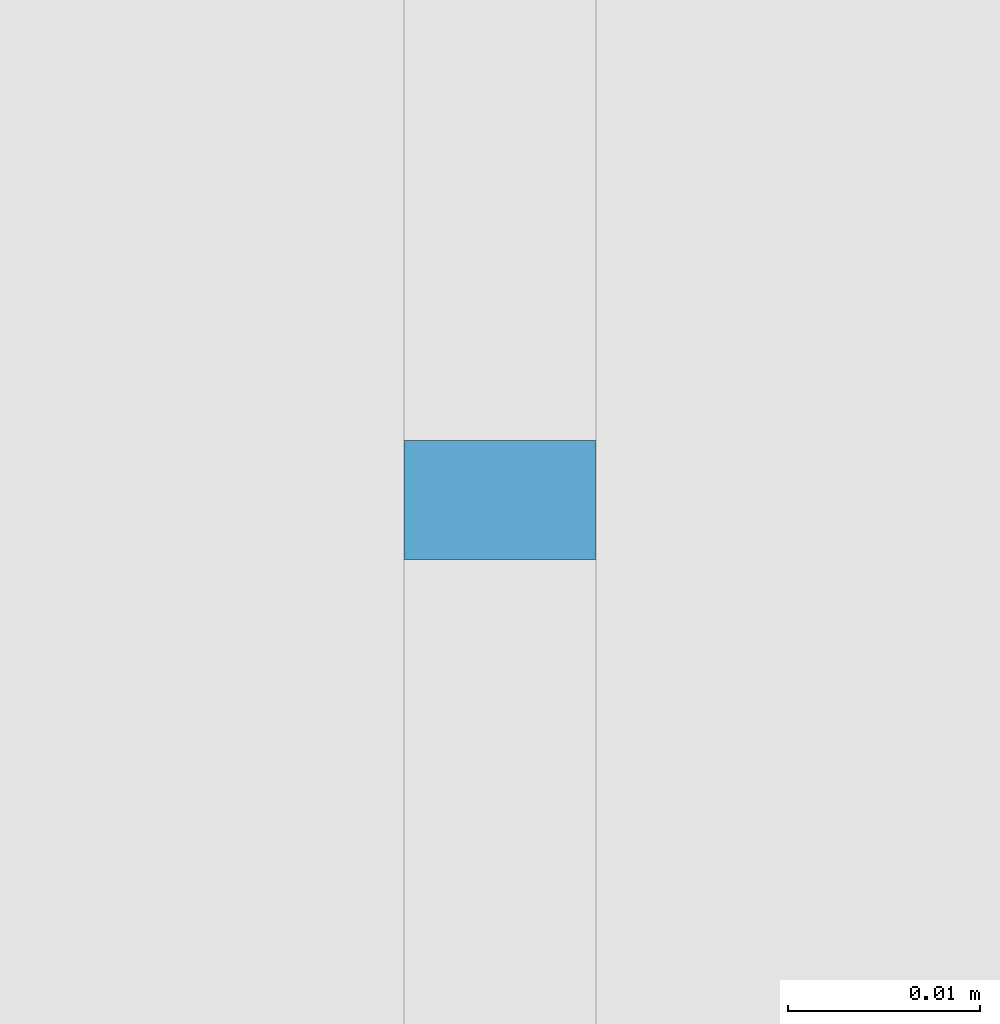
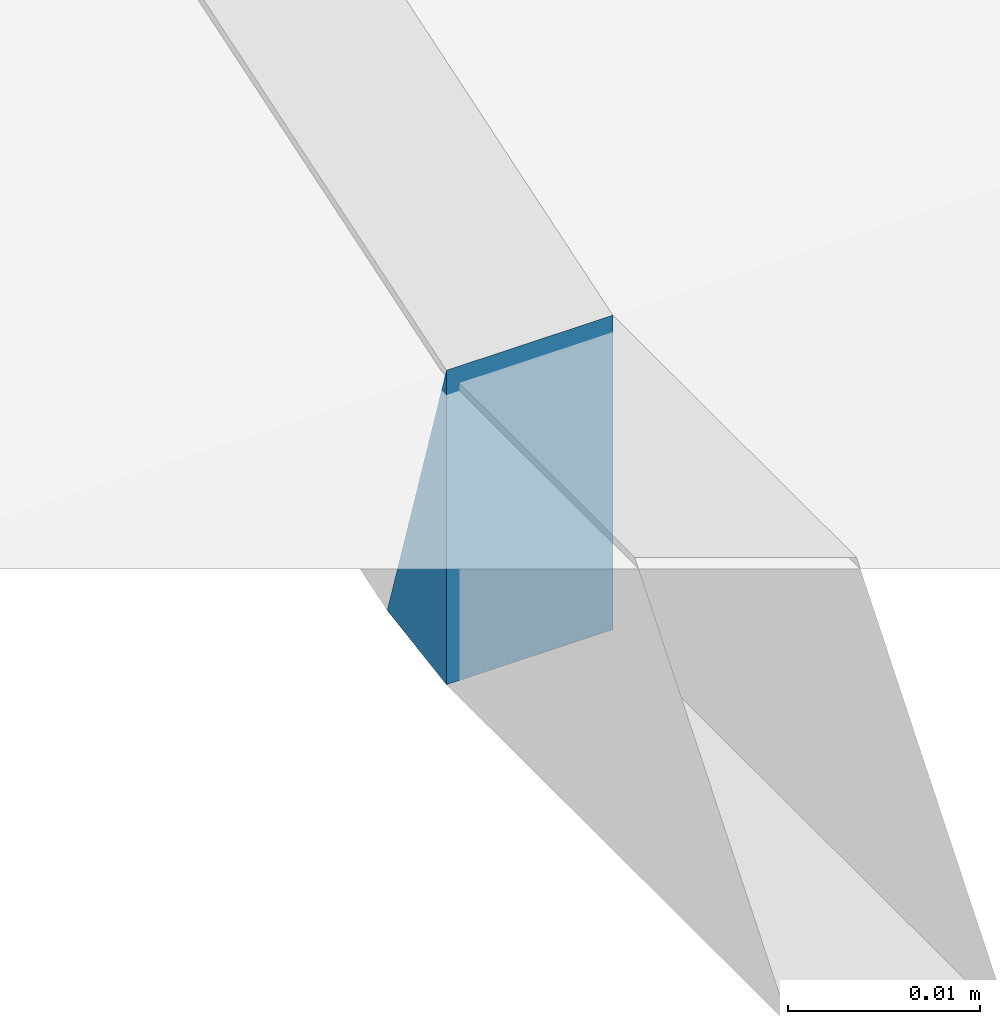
# One storey, part 332 of 583: 1 slab.
"""IFC2X3 building model written with IfcOpenShell, lengths in metres."""

import ifcopenshell
import ifcopenshell.guid

model = None  # the IFC model being written
_history = None  # IfcOwnerHistory: only IFC2X3 demands one
_inside = {}  # id of a spatial element -> (the spatial element, [elements in it])
_under = {}  # id of a project, library or spatial element -> (it, [spatial elements below it])
_declared = {}  # id of a project -> (the project, [libraries it declares])
_typed = {}  # id of a type object -> (the type object, [elements of that type])
_made_of = {}  # id of a material, layer set ... -> (it, [elements and type objects made of it])


def new_model(schema):
    """Start an empty IFC model of exactly this schema.

    Asked for "IFC4X3", IfcOpenShell would pick the latest addendum, in which some entities
    have other attributes; the version numbers below select the first issue.
    IFC2X3 requires an IfcOwnerHistory on every rooted entity: one is made here for all.
    """
    global model, _history
    if schema == "IFC4X3":
        model = ifcopenshell.file(schema_version=(4, 3, 0, 0))
    else:
        model = ifcopenshell.file(schema=schema)
    _inside.clear()
    _under.clear()
    _declared.clear()
    _typed.clear()
    _made_of.clear()
    _history = None
    if model.schema == "IFC2X3":
        org = make("IfcOrganization", Name="unknown")
        user = make(
            "IfcPersonAndOrganization",
            ThePerson=make("IfcPerson", FamilyName="unknown"),
            TheOrganization=org,
        )
        app = make(
            "IfcApplication",
            ApplicationDeveloper=org,
            Version="unknown",
            ApplicationFullName="unknown",
            ApplicationIdentifier="unknown",
        )
        _history = make(
            "IfcOwnerHistory",
            OwningUser=user,
            OwningApplication=app,
            ChangeAction="ADDED",
            CreationDate=0,
        )
    return model


def make(cls, **values):
    """One entity of the class cls with the attributes given. An attribute that is None is left unset."""
    return model.create_entity(
        cls, **{name: value for name, value in values.items() if value is not None}
    )


def entity(cls, *values):
    """Any entity or typed value of the class cls, its attributes in the order of the schema. None: left unset."""
    e = model.create_entity(cls)
    for i, value in enumerate(values):
        if value is not None:
            e[i] = value
    return e


def rooted(cls, **values):
    """An entity with a GlobalId (a new one), such as an element, a storey or a relation."""
    return make(cls, GlobalId=ifcopenshell.guid.new(), OwnerHistory=_history, **values)


def si_unit(unit_type, name, prefix=None):
    """IfcSIUnit, for example si_unit("LENGTHUNIT", "METRE", prefix="MILLI")."""
    return make("IfcSIUnit", UnitType=unit_type, Prefix=prefix, Name=name)


def converted_unit(unit_type, name, factor, base, dimensions=None, offset=None):
    """IfcConversionBasedUnit, such as the inch: factor (a typed value) times the base unit."""
    return make(
        "IfcConversionBasedUnit"
        if offset is None
        else "IfcConversionBasedUnitWithOffset",
        ConversionOffset=offset,
        Dimensions=None
        if dimensions is None
        else entity("IfcDimensionalExponents", *dimensions),
        UnitType=unit_type,
        Name=name,
        ConversionFactor=make(
            "IfcMeasureWithUnit", ValueComponent=factor, UnitComponent=base
        ),
    )


def derived_unit(unit_type, elements):
    """IfcDerivedUnit: a product of units, each with its exponent."""
    return make(
        "IfcDerivedUnit",
        Elements=[
            make("IfcDerivedUnitElement", Unit=unit, Exponent=power)
            for unit, power in elements
        ],
        UnitType=unit_type,
    )


def money_unit(currency):
    """IfcMonetaryUnit."""
    return make("IfcMonetaryUnit", Currency=currency)


def assignment(units):
    """IfcUnitAssignment: the units of a project."""
    return None if units is None else make("IfcUnitAssignment", Units=units)


def point(xyz):
    """IfcCartesianPoint."""
    return None if xyz is None else make("IfcCartesianPoint", Coordinates=xyz)


def direction(xyz):
    """IfcDirection."""
    return None if xyz is None else make("IfcDirection", DirectionRatios=xyz)


def frame(location, z_axis=None, x_axis=None):
    """IfcAxis2Placement3D, a coordinate frame: its origin and axes. An axis left out is left unset."""
    return make(
        "IfcAxis2Placement3D",
        Location=point(location),
        Axis=direction(z_axis),
        RefDirection=direction(x_axis),
    )


def origin_with_axes():
    """The frame at (0, 0, 0) with the z axis (0, 0, 1) and the x axis (1, 0, 0) written out."""
    return frame((0.0, 0.0, 0.0), z_axis=(0.0, 0.0, 1.0), x_axis=(1.0, 0.0, 0.0))


def place(relative_to, where):
    """IfcLocalPlacement: puts the frame where relative to a parent placement (None: the world)."""
    return make(
        "IfcLocalPlacement", PlacementRelTo=relative_to, RelativePlacement=where
    )


def context(
    kind, dimensions, precision=None, world=None, true_north=None, identifier=None
):
    """IfcGeometricRepresentationContext, for example the 3D "Model" context."""
    return make(
        "IfcGeometricRepresentationContext",
        ContextIdentifier=identifier,
        ContextType=kind,
        CoordinateSpaceDimension=dimensions,
        Precision=precision,
        WorldCoordinateSystem=world,
        TrueNorth=true_north,
    )


def subcontext(parent, identifier, kind, view, scale=None):
    """IfcGeometricRepresentationSubContext, for example "Body" below "Model"."""
    return make(
        "IfcGeometricRepresentationSubContext",
        ContextIdentifier=identifier,
        ContextType=kind,
        ParentContext=parent,
        TargetScale=scale,
        TargetView=view,
    )


def project(units=None, contexts=None):
    """IfcProject with its units and contexts."""
    return rooted(
        "IfcProject",
        Name="project",
        RepresentationContexts=contexts,
        UnitsInContext=assignment(units),
    )


def spatial(cls, under=None, at=None, **own):
    """A site, building, storey or space (cls), placed at a placement, below another one or the project."""
    s = rooted(cls, ObjectPlacement=at, **own)
    if under is not None:
        _under.setdefault(under.id(), (under, []))[1].append(s)
    return s


def faces_of(points, faces, orient=None, outer=None):
    """IfcFace entities. A face is a list of loops; a loop is a list of indices into points, from 0.

    orient and outer hold one flag for each loop. By default every Orientation is true, the
    first loop of a face is its IfcFaceOuterBound and the others are IfcFaceBound.
    """
    made = []
    for i, loops in enumerate(faces):
        bounds = []
        for j, loop in enumerate(loops):
            is_outer = j == 0 if outer is None else outer[i][j]
            bounds.append(
                make(
                    "IfcFaceOuterBound" if is_outer else "IfcFaceBound",
                    Bound=make("IfcPolyLoop", Polygon=[points[k] for k in loop]),
                    Orientation=True if orient is None else orient[i][j],
                )
            )
        made.append(make("IfcFace", Bounds=bounds))
    return made


def faceted_brep(points, faces, orient=None, outer=None, voids=None):
    """IfcFacetedBrep: a solid bounded by flat faces; with voids (closed shells), ...WithVoids."""
    shared = [point(p) for p in points]
    hull = make("IfcClosedShell", CfsFaces=faces_of(shared, faces, orient, outer))
    if voids is None:
        return make("IfcFacetedBrep", Outer=hull)
    return make(
        "IfcFacetedBrepWithVoids",
        Outer=hull,
        Voids=[
            make(cls, CfsFaces=faces_of(shared, fs, o, b)) for cls, fs, o, b in voids
        ],
    )


def shape(context_of_items, identifier, shape_type, items):
    """IfcShapeRepresentation: the items that make up one representation, for example the "Body"."""
    return make(
        "IfcShapeRepresentation",
        ContextOfItems=context_of_items,
        RepresentationIdentifier=identifier,
        RepresentationType=shape_type,
        Items=items,
    )


def material(Name=None, Category=None):
    """IfcMaterial."""
    return make("IfcMaterial", Name=Name, Category=Category)


def made_of(thing, what):
    """Note that an element or type object is made of a material, layer set ...; save() writes the relation."""
    if what is not None:
        _made_of.setdefault(what.id(), (what, []))[1].append(thing)
    return thing


def type_object(cls, material=None, **own):
    """A type object (cls), such as IfcWallType, which elements share."""
    return made_of(rooted(cls, **own), material)


def element(
    cls,
    number,
    at=None,
    inside=None,
    cuts=None,
    type_object=None,
    material=None,
    context=None,
    identifier="Body",
    shape_type=None,
    held_by="IfcProductDefinitionShape",
    body=None,
    shapes=None,
    **own,
):
    """One element of the class cls, such as IfcWall. Its Tag is "e" and its number.

    at: its placement. inside: the storey or other place that contains it. cuts: it is an
    opening in that element (IfcRelVoidsElement). A single representation is given by context,
    identifier, shape_type and body (its items); several are given by shapes. held_by: the class
    of the entity that holds the representations. save() writes the other relations.
    """
    e = rooted(cls, Tag="e%d" % number, ObjectPlacement=at, **own)
    if body is not None:
        shapes = [shape(context, identifier, shape_type, body)]
    if shapes is not None:
        e.Representation = make(held_by, Representations=shapes)
    if inside is not None:
        _inside.setdefault(inside.id(), (inside, []))[1].append(e)
    if cuts is not None:
        rooted(
            "IfcRelVoidsElement", RelatingBuildingElement=cuts, RelatedOpeningElement=e
        )
    if type_object is not None:
        _typed.setdefault(type_object.id(), (type_object, []))[1].append(e)
    return made_of(e, material)


def aggregate(whole, parts):
    """IfcRelAggregates: a whole, such as a stair, and the parts it consists of."""
    return rooted("IfcRelAggregates", RelatingObject=whole, RelatedObjects=parts)


def save(model, path):
    """Write the relations noted so far, then the file.

    IfcRelAggregates (storeys below a building ...), IfcRelContainedInSpatialStructure (elements
    in a storey), IfcRelDefinesByType, IfcRelAssociatesMaterial and IfcRelDeclares: one each for
    every whole, place, type object, material and project.
    """
    for whole, parts in _under.values():
        aggregate(whole, parts)
    for where, things in _inside.values():
        rooted(
            "IfcRelContainedInSpatialStructure",
            RelatedElements=things,
            RelatingStructure=where,
        )
    for kind, things in _typed.values():
        rooted("IfcRelDefinesByType", RelatedObjects=things, RelatingType=kind)
    for what, things in _made_of.values():
        rooted("IfcRelAssociatesMaterial", RelatedObjects=things, RelatingMaterial=what)
    for by, libraries in _declared.values():
        rooted("IfcRelDeclares", RelatingContext=by, RelatedDefinitions=libraries)
    model.write(path)


model = new_model("IFC2X3")

# Units and contexts
model_context = context("Model", 3, precision=1e-05, world=origin_with_axes(), true_north=direction((0.0, 1.0)))
body_context = subcontext(model_context, "Body", "Model", "MODEL_VIEW", scale=1.0)
ifc_project = project(units=[si_unit("LENGTHUNIT", "METRE"), si_unit("AREAUNIT", "SQUARE_METRE"), si_unit("VOLUMEUNIT", "CUBIC_METRE"), si_unit("ABSORBEDDOSEUNIT", "GRAY"), si_unit("AMOUNTOFSUBSTANCEUNIT", "MOLE"), si_unit("DOSEEQUIVALENTUNIT", "SIEVERT"), si_unit("ELECTRICCAPACITANCEUNIT", "FARAD"), si_unit("ELECTRICCHARGEUNIT", "COULOMB"), si_unit("ELECTRICCONDUCTANCEUNIT", "SIEMENS"), si_unit("ELECTRICCURRENTUNIT", "AMPERE"), si_unit("ELECTRICRESISTANCEUNIT", "OHM"), si_unit("ELECTRICVOLTAGEUNIT", "VOLT"), si_unit("ENERGYUNIT", "JOULE"), si_unit("FORCEUNIT", "NEWTON"), si_unit("FREQUENCYUNIT", "HERTZ"), si_unit("ILLUMINANCEUNIT", "LUX"), si_unit("INDUCTANCEUNIT", "HENRY"), si_unit("LUMINOUSFLUXUNIT", "LUMEN"), si_unit("LUMINOUSINTENSITYUNIT", "CANDELA"), si_unit("MAGNETICFLUXDENSITYUNIT", "TESLA"), si_unit("MAGNETICFLUXUNIT", "WEBER"), si_unit("MASSUNIT", "GRAM"), converted_unit("PLANEANGLEUNIT", "degree", entity("IfcReal", 0.0174532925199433), si_unit("PLANEANGLEUNIT", "RADIAN"), dimensions=[0, 0, 0, 0, 0, 0, 0]), si_unit("POWERUNIT", "WATT"), si_unit("PRESSUREUNIT", "PASCAL"), si_unit("RADIOACTIVITYUNIT", "BECQUEREL"), si_unit("SOLIDANGLEUNIT", "STERADIAN"), si_unit("THERMODYNAMICTEMPERATUREUNIT", "KELVIN"), si_unit("TIMEUNIT", "SECOND"), derived_unit("ACCELERATIONUNIT", [(si_unit("LENGTHUNIT", "METRE"), 1), (si_unit("TIMEUNIT", "SECOND"), -2)]), derived_unit("ANGULARVELOCITYUNIT", [(converted_unit("PLANEANGLEUNIT", "degree", entity("IfcReal", 0.0174532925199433), si_unit("PLANEANGLEUNIT", "RADIAN"), dimensions=[0, 0, 0, 0, 0, 0, 0]), 1), (si_unit("TIMEUNIT", "SECOND"), -1)]), derived_unit("CURVATUREUNIT", [(converted_unit("PLANEANGLEUNIT", "degree", entity("IfcReal", 0.0174532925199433), si_unit("PLANEANGLEUNIT", "RADIAN"), dimensions=[0, 0, 0, 0, 0, 0, 0]), 1), (si_unit("LENGTHUNIT", "METRE"), -1)]), derived_unit("DYNAMICVISCOSITYUNIT", [(si_unit("PRESSUREUNIT", "PASCAL"), 1), (si_unit("TIMEUNIT", "SECOND"), 1)]), derived_unit("HEATFLUXDENSITYUNIT", [(si_unit("POWERUNIT", "WATT"), 1), (si_unit("LENGTHUNIT", "METRE"), -2)]), derived_unit("HEATINGVALUEUNIT", [(si_unit("ENERGYUNIT", "JOULE"), 1), (si_unit("MASSUNIT", "GRAM"), -1)]), derived_unit("INTEGERCOUNTRATEUNIT", [(si_unit("TIMEUNIT", "SECOND"), -1)]), derived_unit("IONCONCENTRATIONUNIT", [(si_unit("MASSUNIT", "GRAM"), 1), (si_unit("VOLUMEUNIT", "CUBIC_METRE"), -1)]), derived_unit("ISOTHERMALMOISTURECAPACITYUNIT", [(si_unit("VOLUMEUNIT", "CUBIC_METRE"), 1), (si_unit("MASSUNIT", "GRAM"), -1)]), derived_unit("KINEMATICVISCOSITYUNIT", [(si_unit("AREAUNIT", "SQUARE_METRE"), 1), (si_unit("TIMEUNIT", "SECOND"), -1)]), derived_unit("LINEARFORCEUNIT", [(si_unit("FORCEUNIT", "NEWTON"), 1), (si_unit("LENGTHUNIT", "METRE"), -1)]), derived_unit("LINEARMOMENTUNIT", [(si_unit("FORCEUNIT", "NEWTON"), 1), (si_unit("LENGTHUNIT", "METRE"), -1)]), derived_unit("LINEARSTIFFNESSUNIT", [(si_unit("FORCEUNIT", "NEWTON"), 1), (si_unit("LENGTHUNIT", "METRE"), -1)]), derived_unit("LINEARVELOCITYUNIT", [(si_unit("LENGTHUNIT", "METRE"), 1), (si_unit("TIMEUNIT", "SECOND"), -1)]), derived_unit("LUMINOUSINTENSITYDISTRIBUTIONUNIT", [(si_unit("LUMINOUSINTENSITYUNIT", "CANDELA"), 1), (si_unit("LUMINOUSFLUXUNIT", "LUMEN"), -1)]), derived_unit("MASSDENSITYUNIT", [(si_unit("MASSUNIT", "GRAM"), 1), (si_unit("VOLUMEUNIT", "CUBIC_METRE"), -1)]), derived_unit("MASSFLOWRATEUNIT", [(si_unit("MASSUNIT", "GRAM"), 1), (si_unit("TIMEUNIT", "SECOND"), -1)]), derived_unit("MASSPERLENGTHUNIT", [(si_unit("MASSUNIT", "GRAM"), 1), (si_unit("LENGTHUNIT", "METRE"), -1)]), derived_unit("MODULUSOFELASTICITYUNIT", [(si_unit("FORCEUNIT", "NEWTON"), 1), (si_unit("AREAUNIT", "SQUARE_METRE"), -1)]), derived_unit("MODULUSOFLINEARSUBGRADEREACTIONUNIT", [(si_unit("FORCEUNIT", "NEWTON"), 1), (si_unit("LENGTHUNIT", "METRE"), -2)]), derived_unit("MODULUSOFROTATIONALSUBGRADEREACTIONUNIT", [(si_unit("FORCEUNIT", "NEWTON"), 1), (si_unit("LENGTHUNIT", "METRE"), 1)]), derived_unit("MODULUSOFSUBGRADEREACTIONUNIT", [(si_unit("FORCEUNIT", "NEWTON"), 1), (si_unit("VOLUMEUNIT", "CUBIC_METRE"), -1)]), derived_unit("MOISTUREDIFFUSIVITYUNIT", [(si_unit("VOLUMEUNIT", "CUBIC_METRE"), 1), (si_unit("TIMEUNIT", "SECOND"), -1)]), derived_unit("MOLECULARWEIGHTUNIT", [(si_unit("MASSUNIT", "GRAM"), 1), (si_unit("AMOUNTOFSUBSTANCEUNIT", "MOLE"), -1)]), derived_unit("PLANARFORCEUNIT", [(si_unit("FORCEUNIT", "NEWTON"), 1), (si_unit("LENGTHUNIT", "METRE"), -2)]), derived_unit("ROTATIONALFREQUENCYUNIT", [(si_unit("TIMEUNIT", "SECOND"), -1)]), derived_unit("ROTATIONALMASSUNIT", [(si_unit("MASSUNIT", "GRAM"), 1), (si_unit("LENGTHUNIT", "METRE"), 2)]), derived_unit("ROTATIONALSTIFFNESSUNIT", [(si_unit("FORCEUNIT", "NEWTON"), 1), (si_unit("LENGTHUNIT", "METRE"), 1), (converted_unit("PLANEANGLEUNIT", "degree", entity("IfcReal", 0.0174532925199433), si_unit("PLANEANGLEUNIT", "RADIAN"), dimensions=[0, 0, 0, 0, 0, 0, 0]), -1)]), derived_unit("SECTIONAREAINTEGRALUNIT", [(si_unit("LENGTHUNIT", "METRE"), 5)]), derived_unit("SECTIONMODULUSUNIT", [(si_unit("LENGTHUNIT", "METRE"), 3)]), derived_unit("SHEARMODULUSUNIT", [(si_unit("FORCEUNIT", "NEWTON"), 1), (si_unit("AREAUNIT", "SQUARE_METRE"), -1)]), derived_unit("SOUNDPOWERUNIT", [(si_unit("ENERGYUNIT", "JOULE"), 1), (si_unit("TIMEUNIT", "SECOND"), -1)]), derived_unit("SPECIFICHEATCAPACITYUNIT", [(si_unit("FORCEUNIT", "NEWTON"), 1), (si_unit("MASSUNIT", "GRAM"), -1), (si_unit("THERMODYNAMICTEMPERATUREUNIT", "KELVIN"), -1)]), derived_unit("TEMPERATUREGRADIENTUNIT", [(si_unit("THERMODYNAMICTEMPERATUREUNIT", "KELVIN"), 1), (si_unit("LENGTHUNIT", "METRE"), -1)]), derived_unit("THERMALADMITTANCEUNIT", [(si_unit("POWERUNIT", "WATT"), 1), (si_unit("AREAUNIT", "SQUARE_METRE"), -1), (si_unit("THERMODYNAMICTEMPERATUREUNIT", "KELVIN"), -1)]), derived_unit("THERMALCONDUCTANCEUNIT", [(si_unit("POWERUNIT", "WATT"), 1), (si_unit("LENGTHUNIT", "METRE"), -1), (si_unit("THERMODYNAMICTEMPERATUREUNIT", "KELVIN"), -1)]), derived_unit("THERMALEXPANSIONCOEFFICIENTUNIT", [(si_unit("THERMODYNAMICTEMPERATUREUNIT", "KELVIN"), -1)]), derived_unit("THERMALRESISTANCEUNIT", [(si_unit("AREAUNIT", "SQUARE_METRE"), 1), (si_unit("POWERUNIT", "WATT"), -1)]), derived_unit("THERMALTRANSMITTANCEUNIT", [(si_unit("POWERUNIT", "WATT"), 1), (si_unit("AREAUNIT", "SQUARE_METRE"), -1), (si_unit("THERMODYNAMICTEMPERATUREUNIT", "KELVIN"), -1)]), derived_unit("TORQUEUNIT", [(si_unit("FORCEUNIT", "NEWTON"), 1), (si_unit("LENGTHUNIT", "METRE"), 1)]), derived_unit("VAPORPERMEABILITYUNIT", [(si_unit("MASSUNIT", "GRAM"), 1), (si_unit("TIMEUNIT", "SECOND"), -1)]), derived_unit("VOLUMETRICFLOWRATEUNIT", [(si_unit("VOLUMEUNIT", "CUBIC_METRE"), 1), (si_unit("TIMEUNIT", "SECOND"), -1)]), derived_unit("WARPINGCONSTANTUNIT", [(si_unit("LENGTHUNIT", "METRE"), 6)]), derived_unit("WARPINGMOMENTUNIT", [(si_unit("FORCEUNIT", "NEWTON"), 1), (si_unit("LENGTHUNIT", "METRE"), 2)]), money_unit("GBP")], contexts=[model_context])

# Site, building, storey
site_placement = place(None, origin_with_axes())
site = spatial("IfcSite", under=ifc_project, at=site_placement, Name="Site", CompositionType="ELEMENT")
building_placement = place(site_placement, origin_with_axes())
building = spatial("IfcBuilding", under=site, at=building_placement, Name="Building01", CompositionType="ELEMENT")
storey_placement = place(building_placement, frame((0.0, 0.0, 20.78), z_axis=(0.0, 0.0, 1.0), x_axis=(1.0, 0.0, 0.0)))
storey = spatial("IfcBuildingStorey", under=building, at=storey_placement, Name="RL", CompositionType="ELEMENT", Elevation=20.78)

# Slab
ifc_material = material(Name="A_BSUK_Roofs")
slab_type = type_object("IfcSlabType", Name="A-FloorsSlabs A_BSUK_Slabs", PredefinedType="FLOOR")
slab_placement = place(storey_placement, frame((5.813975, 16.280608, -20.279021), z_axis=(0.0, 1.0, 0.0), x_axis=(-1.0, 0.0, 0.0)))
element("IfcSlab", 1, at=slab_placement, inside=storey, type_object=slab_type, material=ifc_material, Name="A-FloorsSlabs A_BSUK_Slabs", ObjectType="A-FloorsSlabs A_BSUK_Slabs", context=body_context, shape_type="Brep", body=[
    faceted_brep([(0.0, 0.0, 0.0), (-0.01, 0.0, 0.0), (-0.01, -0.000979, -0.00618), (0.0, -0.000979, -0.00618), (-0.01, 0.019021, -0.00618), (0.0, 0.019021, -0.00618)], [[[0, 1, 2, 3]], [[3, 2, 4, 5]], [[5, 4, 1, 0]], [[1, 4, 2]], [[3, 5, 0]]]),
])

save(model, "model.ifc")
